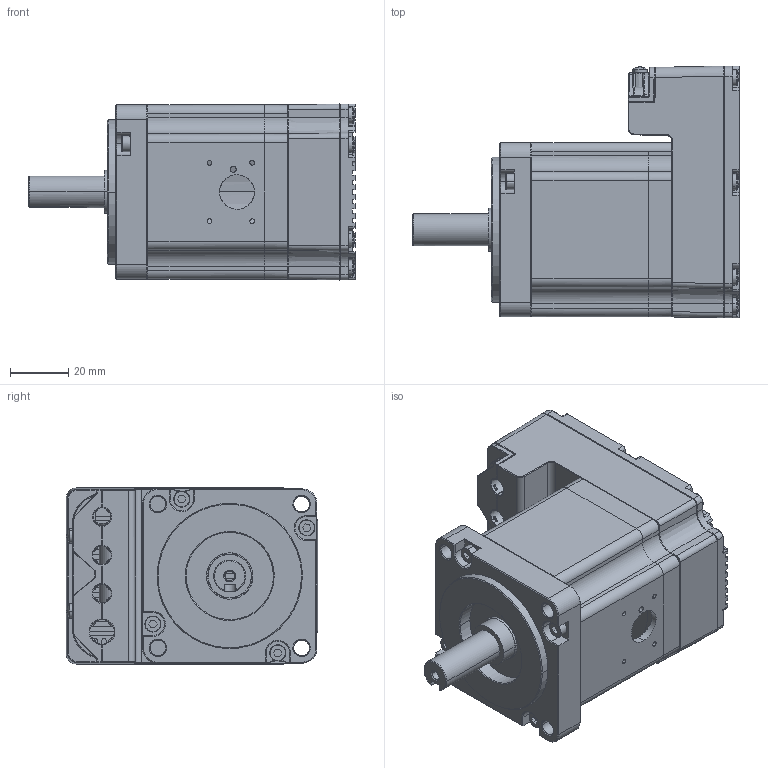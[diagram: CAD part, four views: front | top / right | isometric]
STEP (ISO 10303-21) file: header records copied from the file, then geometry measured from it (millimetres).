
FILE_DESCRIPTION (( 'STEP AP214' ), '1' );
FILE_NAME ('MMS76020BE-OB2PCN_REF 241029.STEP', '2024-10-30T02:48:47', ( '' ), ( '' ), 'SwSTEP 2.0', 'SolidWorks 2022', '' );
FILE_SCHEMA (( 'AUTOMOTIVE_DESIGN' ));
Length unit declared in the file: millimetre
Products named in the file (1): MMS76020BE-OB2PCN_REF 241029
Bounding box: 112.4 x 86.62 x 60.62 mm (x, y, z)
Surface area: 65451.3 mm2 (no closed solid volume)
Topology: 0 solids, 99 shells, 1551 faces, 4766 edges, 3212 vertices
Faces by surface type: plane 535, cylinder 487, bspline 207, torus 133, sphere 126, cone 63
Entity records: 78622 total; most frequent: CARTESIAN_POINT 22715, DIRECTION 7778, ORIENTED_EDGE 7669, EDGE_CURVE 4671, VERTEX_POINT 3175, AXIS2_PLACEMENT_3D 3032, LINE 1714, VECTOR 1714
